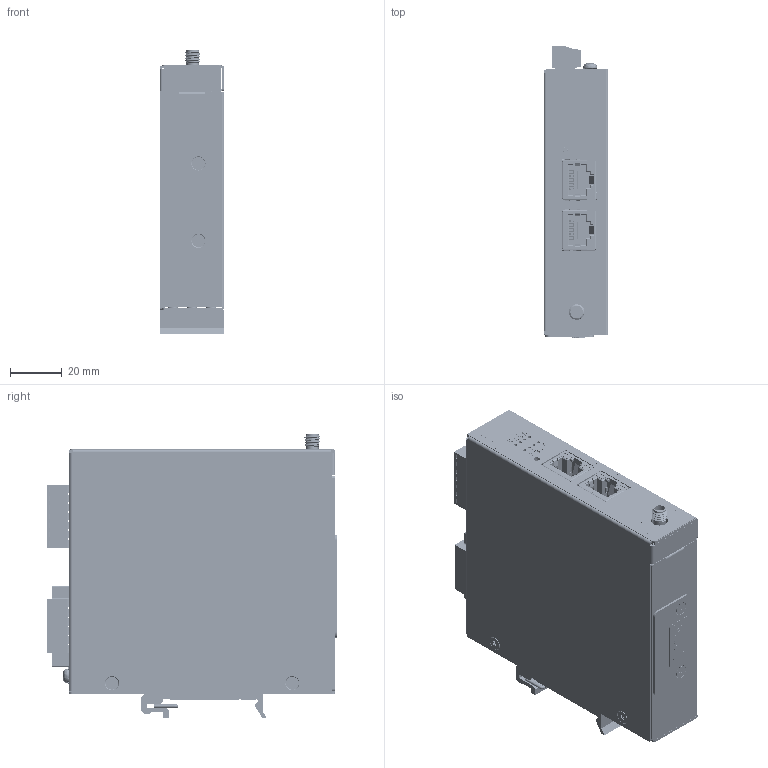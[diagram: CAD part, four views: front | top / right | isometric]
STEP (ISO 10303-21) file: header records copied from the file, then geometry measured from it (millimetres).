
FILE_DESCRIPTION (( 'STEP AP214' ), '1' );
FILE_NAME ('ICR-2412_DIN_holder.STEP', '2024-10-04T09:03:27', ( '' ), ( '' ), 'SwSTEP 2.0', 'SolidWorks 2024', '' );
FILE_SCHEMA (( 'AUTOMOTIVE_DESIGN' ));
Length unit declared in the file: millimetre
Products named in the file (28): SCR_BK_M3_L5_PH_FL_TW_GLUE; Plate_for_SIM_ICR-2(0,4,5,6)xx; SCR_ZC_M3_L6_PH_PW; DIN_25_AL; B-ICR24xx-1A-A10-1; SIM7155-6-1-14-A_PART1; Plug-In_Block_1x6P; VMC-2022-04-1_Label - Insert SIM carefully; ICR-2412_FRONT_Label; Micro_SIM_ card_Connector; SMA_5P_Connector; PUSH_SW_3P; Chassis_for_ICR-24xx; Cover_for_ICR_24xx; LED_HOLDER_GGGG; RJ45_8p_ Connector; SIM7155-6-1-14-A_PART2; PCB_ICR-20(4)xx; SCR_ZC_M3_L6_PH_PW_2; VMC-2022-04-1_Label - Insert SIM carefully_A; ICR-2412_DIN_holder; Pin_Header_5x2P; VMC-2022-04-1_Label - Insert SIM carefully_B; Terminal_Block_1x7P; Plug-In_Block_1x7P; SCR_BK_M3_L5_PH_FL_TW; Terminal_Block_1x6P; BTB_20P_Connector
Assembly tree (40 placements, depth 4):
  ICR-2412_DIN_holder
    B-ICR24xx-1A-A10-1
      PCB_ICR-20(4)xx
      Micro_SIM_ card_Connector  x2
        SIM7155-6-1-14-A_PART1
        SIM7155-6-1-14-A_PART2
      Terminal_Block_1x7P
      Pin_Header_5x2P
      Terminal_Block_1x6P
      PUSH_SW_3P
      SMA_5P_Connector
      LED_HOLDER_GGGG  x2
      RJ45_8p_ Connector  x2
      BTB_20P_Connector
    Chassis_for_ICR-24xx
    Cover_for_ICR_24xx
    Plate_for_SIM_ICR-2(0,4,5,6)xx
    Plug-In_Block_1x7P
    Plug-In_Block_1x6P
    ICR-2412_FRONT_Label
    VMC-2022-04-1_Label - Insert SIM carefully
      VMC-2022-04-1_Label - Insert SIM carefully_A
      VMC-2022-04-1_Label - Insert SIM carefully_B
    SCR_BK_M3_L5_PH_FL_TW  x5
    SCR_BK_M3_L5_PH_FL_TW_GLUE  x4
    SCR_ZC_M3_L6_PH_PW_2
    SCR_ZC_M3_L6_PH_PW  x4
    DIN_25_AL
Bounding box: 25 x 112.9 x 110.35 mm (x, y, z)
Volume: 60805.1 mm3; surface area: 114083.8 mm2
Topology: 56 solids, 74 shells, 12240 faces, 34190 edges, 22131 vertices
Faces by surface type: plane 8041, cylinder 2739, bspline 989, cone 290, torus 105, sphere 76
Entity records: 423752 total; most frequent: CARTESIAN_POINT 102794, ORIENTED_EDGE 50228, DIRECTION 43596, EDGE_CURVE 25117, LINE 18866, VECTOR 18866, VERTEX_POINT 16258, AXIS2_PLACEMENT_3D 12365
